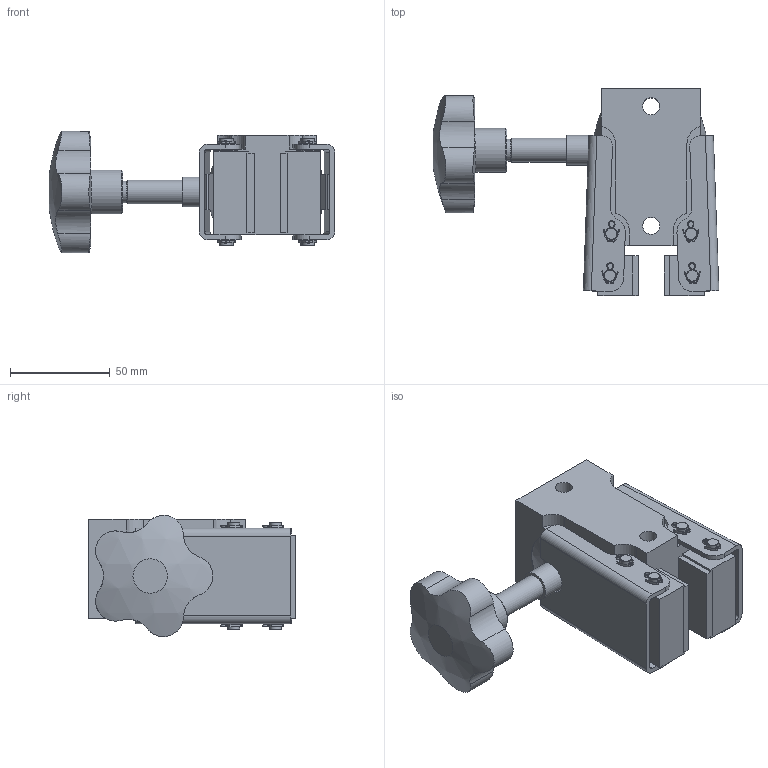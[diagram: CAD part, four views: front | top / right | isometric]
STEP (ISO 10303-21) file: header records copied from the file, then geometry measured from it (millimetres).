
FILE_DESCRIPTION(/* description */ ('','CAx-IF Rec.Pracs.---Representation and Presentation of Product Manufacturing Information (PMI)---4.0---2014-10-13'),/* implementation_level */ '2;1');
FILE_NAME(/* name */ 'X:\INVENTOR\DISEGNI\19_Pinze\STEP x Sito\19_06_C02_03 PMC C02_12,7.stp',/* time_stamp */ '2018-01-31T16:41:45+01:00',/* author */ ('stefano'),/* organization */ (''),/* preprocessor_version */ 'ST-DEVELOPER v17',/* originating_system */ 'Autodesk Inventor 2018',/* authorisation */ '');
FILE_SCHEMA (('AP242_MANAGED_MODEL_BASED_3D_ENGINEERING_MIM_LF { 1 0 10303 442 1 1 4 }'));
Length unit declared in the file: millimetre
Products named in the file (1): 19_06_C02_03 PMC C02_12,7_Substitute_2
Bounding box: 143.53 x 103.99 x 60.89 mm (x, y, z)
Volume: 309078 mm3; surface area: 70804 mm2
Topology: 7 solids, 7 shells, 431 faces, 1312 edges, 882 vertices
Faces by surface type: plane 155, cylinder 143, bspline 96, cone 34, sphere 3
Full cylindrical faces by diameter (mm): 1.5 x8, 3.242 x2, 4.5 x2, 6 x6, 6.1 x10, 8.5 x2, 11 x1, 12 x1, 15 x1, 22 x1, 40 x2
Entity records: 20592 total; most frequent: CARTESIAN_POINT 8767, ORIENTED_EDGE 2620, DIRECTION 2295, EDGE_CURVE 1310, VERTEX_POINT 882, AXIS2_PLACEMENT_3D 868, LINE 559, VECTOR 559
